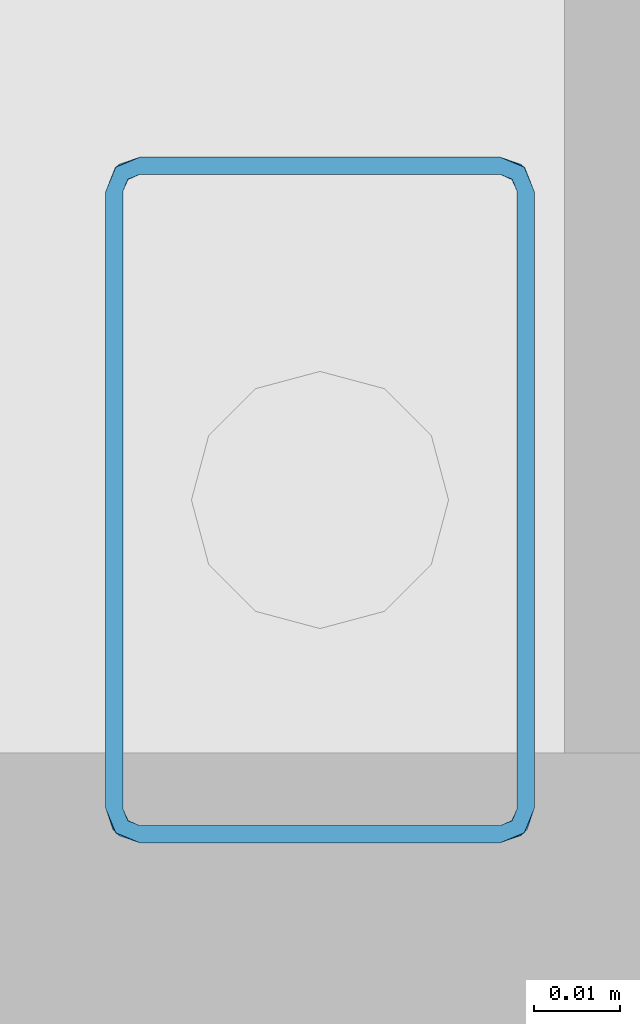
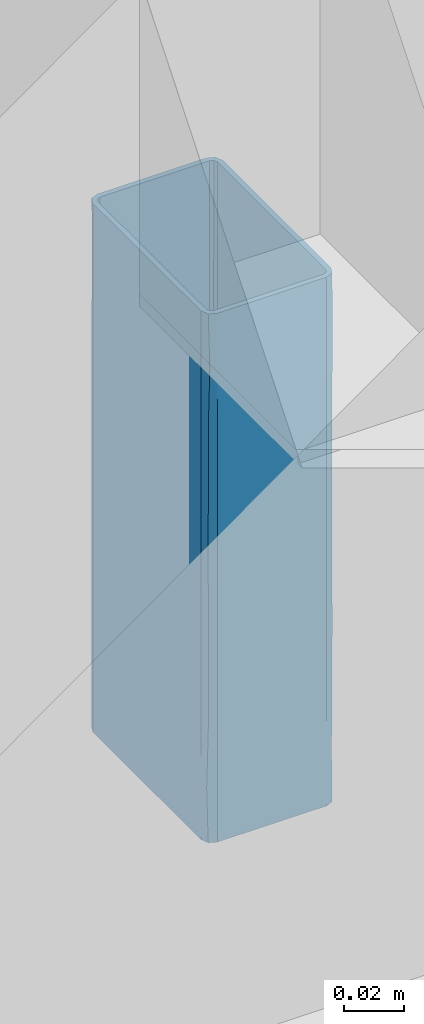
# One storey, part 146 of 230: 1 beam.
"""IFC4X3_ADD2 building model written with IfcOpenShell, lengths in millimetres."""

import ifcopenshell
import ifcopenshell.guid

model = None  # the IFC model being written
_history = None  # IfcOwnerHistory: only IFC2X3 demands one
_inside = {}  # id of a spatial element -> (the spatial element, [elements in it])
_under = {}  # id of a project, library or spatial element -> (it, [spatial elements below it])
_declared = {}  # id of a project -> (the project, [libraries it declares])
_typed = {}  # id of a type object -> (the type object, [elements of that type])
_made_of = {}  # id of a material, layer set ... -> (it, [elements and type objects made of it])


def new_model(schema):
    """Start an empty IFC model of exactly this schema.

    Asked for "IFC4X3", IfcOpenShell would pick the latest addendum, in which some entities
    have other attributes; the version numbers below select the first issue.
    IFC2X3 requires an IfcOwnerHistory on every rooted entity: one is made here for all.
    """
    global model, _history
    if schema == "IFC4X3":
        model = ifcopenshell.file(schema_version=(4, 3, 0, 0))
    else:
        model = ifcopenshell.file(schema=schema)
    _inside.clear()
    _under.clear()
    _declared.clear()
    _typed.clear()
    _made_of.clear()
    _history = None
    if model.schema == "IFC2X3":
        org = make("IfcOrganization", Name="unknown")
        user = make(
            "IfcPersonAndOrganization",
            ThePerson=make("IfcPerson", FamilyName="unknown"),
            TheOrganization=org,
        )
        app = make(
            "IfcApplication",
            ApplicationDeveloper=org,
            Version="unknown",
            ApplicationFullName="unknown",
            ApplicationIdentifier="unknown",
        )
        _history = make(
            "IfcOwnerHistory",
            OwningUser=user,
            OwningApplication=app,
            ChangeAction="ADDED",
            CreationDate=0,
        )
    return model


def make(cls, **values):
    """One entity of the class cls with the attributes given. An attribute that is None is left unset."""
    return model.create_entity(
        cls, **{name: value for name, value in values.items() if value is not None}
    )


def rooted(cls, **values):
    """An entity with a GlobalId (a new one), such as an element, a storey or a relation."""
    return make(cls, GlobalId=ifcopenshell.guid.new(), OwnerHistory=_history, **values)


def si_unit(unit_type, name, prefix=None):
    """IfcSIUnit, for example si_unit("LENGTHUNIT", "METRE", prefix="MILLI")."""
    return make("IfcSIUnit", UnitType=unit_type, Prefix=prefix, Name=name)


def assignment(units):
    """IfcUnitAssignment: the units of a project."""
    return None if units is None else make("IfcUnitAssignment", Units=units)


def point(xyz):
    """IfcCartesianPoint."""
    return None if xyz is None else make("IfcCartesianPoint", Coordinates=xyz)


def direction(xyz):
    """IfcDirection."""
    return None if xyz is None else make("IfcDirection", DirectionRatios=xyz)


def frame(location, z_axis=None, x_axis=None):
    """IfcAxis2Placement3D, a coordinate frame: its origin and axes. An axis left out is left unset."""
    return make(
        "IfcAxis2Placement3D",
        Location=point(location),
        Axis=direction(z_axis),
        RefDirection=direction(x_axis),
    )


def origin_with_axes():
    """The frame at (0, 0, 0) with the z axis (0, 0, 1) and the x axis (1, 0, 0) written out."""
    return frame((0.0, 0.0, 0.0), z_axis=(0.0, 0.0, 1.0), x_axis=(1.0, 0.0, 0.0))


def place(relative_to, where):
    """IfcLocalPlacement: puts the frame where relative to a parent placement (None: the world)."""
    return make(
        "IfcLocalPlacement", PlacementRelTo=relative_to, RelativePlacement=where
    )


def context(
    kind, dimensions, precision=None, world=None, true_north=None, identifier=None
):
    """IfcGeometricRepresentationContext, for example the 3D "Model" context."""
    return make(
        "IfcGeometricRepresentationContext",
        ContextIdentifier=identifier,
        ContextType=kind,
        CoordinateSpaceDimension=dimensions,
        Precision=precision,
        WorldCoordinateSystem=world,
        TrueNorth=true_north,
    )


def subcontext(parent, identifier, kind, view, scale=None):
    """IfcGeometricRepresentationSubContext, for example "Body" below "Model"."""
    return make(
        "IfcGeometricRepresentationSubContext",
        ContextIdentifier=identifier,
        ContextType=kind,
        ParentContext=parent,
        TargetScale=scale,
        TargetView=view,
    )


def project(units=None, contexts=None):
    """IfcProject with its units and contexts."""
    return rooted(
        "IfcProject",
        Name="project",
        RepresentationContexts=contexts,
        UnitsInContext=assignment(units),
    )


def spatial(cls, under=None, at=None, **own):
    """A site, building, storey or space (cls), placed at a placement, below another one or the project."""
    s = rooted(cls, ObjectPlacement=at, **own)
    if under is not None:
        _under.setdefault(under.id(), (under, []))[1].append(s)
    return s


def point_list(points):
    """IfcCartesianPointList2D or 3D."""
    cls = (
        "IfcCartesianPointList2D" if len(points[0]) == 2 else "IfcCartesianPointList3D"
    )
    return make(cls, CoordList=points)


def polygons(points, faces, closed=None, point_numbers=None):
    """IfcPolygonalFaceSet: a face is its outer loop, then its inner loops; points numbered from 1."""
    made = []
    for loops in faces:
        if len(loops) == 1:
            made.append(make("IfcIndexedPolygonalFace", CoordIndex=loops[0]))
        else:
            made.append(
                make(
                    "IfcIndexedPolygonalFaceWithVoids",
                    CoordIndex=loops[0],
                    InnerCoordIndices=loops[1:],
                )
            )
    return make(
        "IfcPolygonalFaceSet",
        Coordinates=point_list(points),
        Closed=closed,
        Faces=made,
        PnIndex=point_numbers,
    )


def shape(context_of_items, identifier, shape_type, items):
    """IfcShapeRepresentation: the items that make up one representation, for example the "Body"."""
    return make(
        "IfcShapeRepresentation",
        ContextOfItems=context_of_items,
        RepresentationIdentifier=identifier,
        RepresentationType=shape_type,
        Items=items,
    )


def made_of(thing, what):
    """Note that an element or type object is made of a material, layer set ...; save() writes the relation."""
    if what is not None:
        _made_of.setdefault(what.id(), (what, []))[1].append(thing)
    return thing


def element(
    cls,
    number,
    at=None,
    inside=None,
    cuts=None,
    type_object=None,
    material=None,
    context=None,
    identifier="Body",
    shape_type=None,
    held_by="IfcProductDefinitionShape",
    body=None,
    shapes=None,
    **own,
):
    """One element of the class cls, such as IfcWall. Its Tag is "e" and its number.

    at: its placement. inside: the storey or other place that contains it. cuts: it is an
    opening in that element (IfcRelVoidsElement). A single representation is given by context,
    identifier, shape_type and body (its items); several are given by shapes. held_by: the class
    of the entity that holds the representations. save() writes the other relations.
    """
    e = rooted(cls, Tag="e%d" % number, ObjectPlacement=at, **own)
    if body is not None:
        shapes = [shape(context, identifier, shape_type, body)]
    if shapes is not None:
        e.Representation = make(held_by, Representations=shapes)
    if inside is not None:
        _inside.setdefault(inside.id(), (inside, []))[1].append(e)
    if cuts is not None:
        rooted(
            "IfcRelVoidsElement", RelatingBuildingElement=cuts, RelatedOpeningElement=e
        )
    if type_object is not None:
        _typed.setdefault(type_object.id(), (type_object, []))[1].append(e)
    return made_of(e, material)


def aggregate(whole, parts):
    """IfcRelAggregates: a whole, such as a stair, and the parts it consists of."""
    return rooted("IfcRelAggregates", RelatingObject=whole, RelatedObjects=parts)


def save(model, path):
    """Write the relations noted so far, then the file.

    IfcRelAggregates (storeys below a building ...), IfcRelContainedInSpatialStructure (elements
    in a storey), IfcRelDefinesByType, IfcRelAssociatesMaterial and IfcRelDeclares: one each for
    every whole, place, type object, material and project.
    """
    for whole, parts in _under.values():
        aggregate(whole, parts)
    for where, things in _inside.values():
        rooted(
            "IfcRelContainedInSpatialStructure",
            RelatedElements=things,
            RelatingStructure=where,
        )
    for kind, things in _typed.values():
        rooted("IfcRelDefinesByType", RelatedObjects=things, RelatingType=kind)
    for what, things in _made_of.values():
        rooted("IfcRelAssociatesMaterial", RelatedObjects=things, RelatingMaterial=what)
    for by, libraries in _declared.values():
        rooted("IfcRelDeclares", RelatingContext=by, RelatedDefinitions=libraries)
    model.write(path)


model = new_model("IFC4X3_ADD2")

# Units and contexts
model_context = context("Model", 3, precision=1e-05, world=origin_with_axes(), true_north=direction((0.0, 1.0)))
body_context = subcontext(model_context, "Body", "Model", "MODEL_VIEW")
ifc_project = project(units=[si_unit("LENGTHUNIT", "METRE", prefix="MILLI"), si_unit("AREAUNIT", "SQUARE_METRE"), si_unit("VOLUMEUNIT", "CUBIC_METRE"), si_unit("PLANEANGLEUNIT", "RADIAN"), si_unit("TIMEUNIT", "SECOND"), si_unit("MASSUNIT", "GRAM")], contexts=[model_context])

# Site, building, storey
site_placement = place(None, origin_with_axes())
site = spatial("IfcSite", under=ifc_project, at=site_placement, Name="Site", CompositionType="ELEMENT")
building_placement = place(site_placement, origin_with_axes())
building = spatial("IfcBuilding", under=site, at=building_placement, Name="IFC Building Story")
storey_placement = place(building_placement, origin_with_axes())
storey = spatial("IfcBuildingStorey", under=building, at=storey_placement, Name="ETAGE 00 (0)", Elevation=0.0)

# Beam
beam_placement = place(storey_placement, origin_with_axes())
element("IfcBeam", 1, at=beam_placement, inside=storey, Name="PS9", ObjectType="K50*80*2", context=body_context, shape_type="Tessellation", body=[
    polygons([(33514.18800000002, -161.0, 3775.0), (33516.18800000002, -161.0, 3775.0), (33513.60221356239, -162.4142135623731, 3775.0), (33516.18800000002, -88.99999999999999, 3775.0), (33514.18800000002, -88.99999999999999, 3775.0), (33513.60221356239, -87.5857864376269, 3775.0), (33515.01642712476, -86.17157287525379, 3775.0), (33512.18800000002, -85.0, 3775.0), (33512.18800000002, -87.0, 3775.0), (33470.18800000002, -87.0, 3775.0), (33470.18800000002, -85.0, 3775.0), (33468.77378643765, -87.5857864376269, 3775.0), (33467.35957287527, -86.17157287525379, 3775.0), (33466.18800000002, -88.99999999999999, 3775.0), (33468.18800000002, -88.99999999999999, 3775.0), (33468.18800000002, -160.9999999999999, 3775.0), (33466.18800000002, -161.0, 3775.0), (33468.77378643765, -162.4142135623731, 3775.0), (33467.35957287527, -163.8284271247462, 3775.0), (33470.18800000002, -165.0, 3775.0), (33470.18800000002, -163.0, 3775.0), (33512.18800000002, -165.0, 3775.0), (33512.18800000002, -163.0, 3775.0), (33515.01642712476, -163.8284271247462, 3775.0), (33468.18800000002, -161.0, 3990.0), (33466.18800000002, -160.9999999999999, 3990.0), (33468.77378643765, -162.4142135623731, 3990.0), (33466.18800000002, -88.99999999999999, 3990.0), (33468.18800000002, -88.99999999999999, 3990.0), (33468.77378643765, -87.5857864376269, 3990.0), (33467.35957287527, -86.17157287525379, 3990.0), (33470.18800000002, -85.0, 3990.0), (33470.18800000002, -87.0, 3990.0), (33512.18800000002, -87.0, 3990.0), (33512.18800000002, -85.0, 3990.0), (33513.60221356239, -87.5857864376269, 3990.0), (33515.01642712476, -86.17157287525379, 3990.0), (33516.18800000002, -88.99999999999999, 3990.0), (33514.18800000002, -88.99999999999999, 3990.0), (33514.18800000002, -161.0, 3990.0), (33516.18800000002, -161.0, 3990.0), (33513.60221356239, -162.4142135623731, 3990.0), (33515.01642712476, -163.8284271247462, 3990.0), (33512.18800000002, -165.0, 3990.0), (33512.18800000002, -163.0, 3990.0), (33470.18800000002, -165.0, 3990.0), (33470.18800000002, -163.0, 3990.0), (33467.35957287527, -163.8284271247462, 3990.0), (33466.18800000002, -161.0, 3809.917044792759), (33466.18800000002, -161.0, 3844.834089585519), (33466.18800000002, -161.0, 3879.751134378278), (33466.18800000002, -161.0, 3914.668179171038), (33466.18800000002, -161.0, 3952.334089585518), (33466.18800000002, -161.0, 3972.541475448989), (33466.18800000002, -88.99999999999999, 3972.541476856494), (33466.18800000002, -88.99999999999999, 3952.33408986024), (33466.18800000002, -88.99999999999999, 3914.668181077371), (33466.18800000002, -88.99999999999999, 3879.751136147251), (33466.18800000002, -88.99999999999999, 3844.83408986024), (33466.18800000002, -88.99999999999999, 3809.91704493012), (33467.77085087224, -85.81293393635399, 3967.873818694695), (33467.40913664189, -86.12286280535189, 3945.666473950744), (33467.27053072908, -86.26351081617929, 3895.937497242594), (33467.41797321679, -86.1143542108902, 3871.663943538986), (33470.18800000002, -85.0, 3909.374999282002), (33470.18800000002, -85.0, 3882.5), (33470.18800000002, -85.0, 3955.082954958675), (33470.18800000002, -85.0, 3936.250001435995), (33467.35957288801, -86.1715728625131, 3827.375566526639), (33467.45078342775, -86.08321316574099, 3919.653796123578), (33467.35957290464, -86.17157284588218, 3804.335726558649), (33470.18800000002, -85.0, 3844.83409008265), (33470.18800000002, -85.0, 3809.917045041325), (33467.29189265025, -86.24091279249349, 3849.532632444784), (33512.18800000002, -85.0, 3955.082954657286), (33512.18800000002, -85.0, 3920.165909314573), (33512.18800000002, -85.0, 3882.5), (33512.18800000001, -85.0, 3855.625), (33512.18800000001, -85.0, 3828.75), (33512.18800000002, -85.0, 3809.917045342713), (33516.18800000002, -88.99999999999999, 3920.165909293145), (33516.18800000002, -88.99999999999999, 3885.248863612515), (33514.95802685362, -86.11435427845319, 3893.336049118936), (33515.10546930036, -86.26351084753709, 3869.062497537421), (33514.96686333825, -86.1228627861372, 3819.333521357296), (33514.92521661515, -86.0832132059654, 3845.346200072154), (33516.18800000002, -88.99999999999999, 3850.331817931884), (33516.18800000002, -88.99999999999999, 3812.665908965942), (33514.60514905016, -85.81293387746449, 3797.126178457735), (33516.18800000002, -88.99999999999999, 3955.082954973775), (33515.01642704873, -86.17157279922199, 3960.664264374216), (33515.01642711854, -86.17157286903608, 3937.624427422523), (33516.18800000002, -88.99999999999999, 3792.458522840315), (33515.08410717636, -86.2409126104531, 3915.467360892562), (33516.18800000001, -161.0, 3955.082955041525), (33516.18800000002, -161.0, 3936.250000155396), (33516.18800000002, -161.0, 3909.374999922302), (33516.18800000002, -161.0, 3882.500000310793), (33516.18800000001, -161.0, 3855.625000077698), (33516.18800000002, -161.0, 3828.749999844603), (33516.18800000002, -161.0, 3809.917044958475), (33515.12578757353, -163.7146646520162, 3845.577340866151), (33514.61224142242, -164.181674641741, 3797.166760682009), (33512.18800000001, -165.0, 3952.334091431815), (33515.37506619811, -163.4171489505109, 3967.873818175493), (33512.18800000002, -165.0, 3972.541476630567), (33515.01642712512, -163.8284271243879, 3819.333521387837), (33512.18800000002, -165.0, 3809.91704469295), (33512.18800000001, -165.0, 3844.834091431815), (33515.06513731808, -163.7788632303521, 3945.666473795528), (33515.08916752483, -163.7537659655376, 3869.062497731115), (33512.18800000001, -165.0, 3914.668182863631), (33514.92448913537, -163.9174693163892, 3895.937497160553), (33515.10478680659, -163.7372166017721, 3919.653793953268), (33512.18800000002, -165.0, 3879.75113817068), (33470.18800000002, -165.0, 3955.08295453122), (33470.18800000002, -165.0, 3936.250000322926), (33470.18800000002, -165.0, 3909.374999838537), (33470.18800000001, -165.0, 3882.499999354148), (33470.18800000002, -165.0, 3855.624998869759), (33470.18800000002, -165.0, 3828.749999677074), (33470.18800000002, -165.0, 3809.91704546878), (33467.47333532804, -163.9377875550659, 3845.577340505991), (33467.00632533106, -163.4242413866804, 3797.166760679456), (33467.77085103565, -164.1870661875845, 3967.873819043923), (33467.35957286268, -163.8284271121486, 3819.333521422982), (33467.270530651, -163.7364891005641, 3895.9374973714), (33467.45078336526, -163.9167867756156, 3919.653795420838), (33467.43423399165, -163.9011674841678, 3869.062497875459), (33467.40913672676, -163.8771372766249, 3945.66647440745), (33468.18800000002, -161.0, 3787.345039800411), (33468.18800000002, -160.9999999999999, 3977.654960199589), (33468.71391543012, -162.3516932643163, 3885.294330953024), (33468.69622650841, -162.3321455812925, 3897.412200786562), (33470.18800000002, -163.0, 3895.9374996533), (33468.77378643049, -162.4142135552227, 3971.482438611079), (33468.77378643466, -162.4142135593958, 3958.277070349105), (33468.18800000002, -160.9999999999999, 3952.964881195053), (33468.18800000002, -160.9999999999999, 3965.309920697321), (33468.18800000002, -160.9999999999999, 3891.239682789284), (33470.18800000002, -163.0, 3787.345039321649), (33470.18800000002, -163.0, 3977.654960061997), (33468.18800000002, -161.0, 3833.119841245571), (33468.18800000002, -160.9999999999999, 3847.649801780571), (33468.86455020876, -162.4994934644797, 3835.468749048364), (33470.18800000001, -163.0, 3842.187499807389), (33470.18800000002, -163.0, 3828.749999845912), (33470.18800000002, -163.0, 3965.309920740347), (33470.18800000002, -163.0, 3936.249999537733), (33470.18800000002, -163.0, 3922.812499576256), (33468.69847931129, -162.3346640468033, 3934.447319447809), (33468.77378644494, -162.4142135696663, 3793.517559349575), (33468.84502735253, -162.4820338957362, 3805.455512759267), (33470.18800000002, -163.0, 3799.690079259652), (33468.79521084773, -162.4353182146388, 3823.199144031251), (33468.18800000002, -160.9999999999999, 3903.584722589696), (33468.84567458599, -162.4826201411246, 3873.855123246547), (33468.87753981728, -162.5108587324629, 3862.343748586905), (33468.18800000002, -161.0, 3862.179762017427), (33468.8304822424, -162.4687224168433, 3847.208930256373), (33468.18800000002, -161.0, 3804.059920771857), (33468.70255595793, -162.3391997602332, 3922.53114844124), (33468.70244673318, -162.339078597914, 3909.326205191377), (33470.18800000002, -163.0, 3909.374999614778), (33468.18800000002, -160.9999999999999, 3940.619841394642), (33468.7031060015, -162.3398096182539, 3946.373334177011), (33470.18800000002, -163.0, 3950.779960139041), (33470.18800000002, -163.0, 3882.499999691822), (33468.18800000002, -161.0, 3876.709722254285), (33470.18800000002, -163.0, 3869.062499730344), (33470.18800000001, -163.0, 3855.624999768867), (33468.18800000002, -160.9999999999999, 3915.929762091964), (33468.18800000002, -160.9999999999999, 3928.274801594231), (33470.18800000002, -163.0, 3814.220039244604), (33468.18800000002, -161.0, 3818.589881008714), (33512.18800000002, -163.0, 3977.654960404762), (33512.18800000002, -163.0, 3963.125000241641), (33512.18800000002, -163.0, 3949.687500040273), (33512.18800000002, -163.0, 3936.249999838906), (33512.18800000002, -163.0, 3922.812499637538), (33512.18800000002, -163.0, 3909.375000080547), (33512.18800000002, -163.0, 3895.937500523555), (33512.18800000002, -163.0, 3882.500000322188), (33512.18800000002, -163.0, 3867.970040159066), (33512.18800000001, -163.0, 3853.44007935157), (33512.18800000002, -163.0, 3838.910118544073), (33512.18800000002, -163.0, 3824.380158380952), (33512.18800000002, -163.0, 3812.035118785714), (33512.18800000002, -163.0, 3799.690079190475), (33512.18800000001, -163.0, 3787.345039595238), (33514.18800000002, -161.0, 3847.649800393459), (33514.18800000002, -161.0, 3833.119841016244), (33513.57391865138, -162.441953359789, 3849.456469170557), (33514.18800000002, -161.0, 3862.179760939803), (33513.55890914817, -162.4562307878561, 3829.848143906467), (33513.66208468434, -162.3516931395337, 3885.2943310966), (33513.67977360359, -162.3321454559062, 3897.412201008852), (33514.18800000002, -161.0, 3818.589881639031), (33514.18800000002, -161.0, 3977.654960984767), (33514.18800000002, -161.0, 3787.345040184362), (33513.60221356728, -162.4142135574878, 3793.517559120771), (33513.60221354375, -162.4142135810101, 3971.482439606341), (33513.5281039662, -162.4846283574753, 3817.793365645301), (33513.52266400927, -162.4895207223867, 3805.862598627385), (33514.18800000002, -161.0, 3804.059921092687), (33513.68326589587, -162.3282243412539, 3922.102280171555), (33513.67355337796, -162.3390784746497, 3909.326205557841), (33513.56478551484, -162.4506762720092, 3873.290866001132), (33514.18800000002, -161.0, 3876.709721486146), (33513.67058166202, -162.3423679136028, 3934.82470770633), (33514.18800000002, -161.0, 3952.964880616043), (33514.18800000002, -161.0, 3940.61984043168), (33513.66670604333, -162.3466359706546, 3946.792359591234), (33513.65068791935, -162.3640176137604, 3959.137399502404), (33514.18800000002, -161.0, 3965.309920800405), (33514.18800000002, -161.0, 3903.584722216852), (33514.18800000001, -161.0, 3891.23968203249), (33513.49439408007, -162.5143759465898, 3861.031485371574), (33514.18800000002, -161.0, 3915.929761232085), (33514.18800000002, -161.0, 3928.274800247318), (33514.18800000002, -89.0, 3977.654961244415), (33514.18800000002, -89.0, 3963.125000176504), (33514.18800000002, -89.0, 3949.687499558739), (33514.18800000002, -89.0, 3936.249998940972), (33514.18800000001, -89.0, 3922.812499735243), (33514.18800000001, -89.0, 3909.374999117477), (33514.18800000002, -89.0, 3895.93749849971), (33514.18800000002, -89.0, 3882.499999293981), (33514.18800000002, -89.0, 3867.970038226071), (33514.18800000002, -89.0, 3853.440078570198), (33514.18800000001, -89.0, 3838.910118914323), (33514.18800000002, -89.0, 3824.380157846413), (33514.18800000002, -89.0, 3812.035117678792), (33514.18800000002, -89.0, 3799.690078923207), (33514.18800000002, -89.0, 3787.345040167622), (33512.18800000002, -87.0, 3952.964880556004), (33512.18800000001, -87.0, 3940.619841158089), (33513.53463598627, -87.5212939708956, 3946.792360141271), (33513.62995336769, -87.61408135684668, 3849.456469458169), (33512.18800000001, -87.0, 3833.119841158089), (33513.64423079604, -87.62909086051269, 3829.848143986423), (33513.53969316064, -87.5259153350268, 3885.294331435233), (33513.52014548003, -87.5082264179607, 3897.41220141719), (33512.18800000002, -87.0, 3818.589880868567), (33512.18800000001, -87.0, 3847.649801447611), (33512.18800000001, -87.0, 3862.179761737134), (33512.18800000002, -87.0, 3787.345039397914), (33513.60221356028, -87.58578643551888, 3793.517559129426), (33512.18800000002, -87.0, 3804.059920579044), (33512.18800000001, -87.0, 3977.654960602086), (33513.55201761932, -87.5373120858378, 3959.137400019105), (33513.67262836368, -87.65989604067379, 3817.793365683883), (33513.67752072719, -87.66533599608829, 3805.862598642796), (33513.51622436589, -87.5047341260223, 3922.102280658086), (33513.52707849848, -87.5144466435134, 3909.32620602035), (33513.63867629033, -87.62321450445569, 3873.290866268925), (33512.18800000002, -87.0, 3876.709722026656), (33513.53036793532, -87.51741835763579, 3934.824708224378), (33513.60221357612, -87.58578645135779, 3971.482439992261), (33512.18800000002, -87.0, 3965.309921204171), (33512.18800000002, -87.0, 3903.584721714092), (33512.18800000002, -87.0, 3891.239682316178), (33513.70237595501, -87.693605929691, 3861.031485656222), (33512.18800000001, -87.0, 3915.929761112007), (33512.18800000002, -87.0, 3928.274801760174), (33470.18800000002, -87.0, 3977.65496031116), (33470.18800000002, -87.0, 3965.30992062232), (33470.18800000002, -87.0, 3952.96488093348), (33470.18800000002, -87.0, 3940.61984124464), (33470.18800000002, -87.0, 3928.2748015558), (33470.18800000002, -87.0, 3915.92976186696), (33470.18800000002, -87.0, 3903.58472217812), (33470.18800000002, -87.0, 3891.23968248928), (33470.18800000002, -87.0, 3876.70972217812), (33470.18800000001, -87.0, 3862.17976186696), (33470.18800000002, -87.0, 3847.649801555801), (33470.18800000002, -87.0, 3833.119841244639), (33470.18800000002, -87.0, 3818.58988093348), (33470.18800000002, -87.0, 3804.059920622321), (33470.18800000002, -87.0, 3787.34503968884), (33468.85585447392, -87.5082264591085, 3897.412200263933), (33468.83630675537, -87.52591541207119, 3885.29433118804), (33468.77378649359, -87.5857863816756, 3971.482436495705), (33468.18800000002, -88.99999999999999, 3936.249999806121), (33468.18800000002, -88.99999999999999, 3922.812499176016), (33468.85333601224, -87.51047925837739, 3934.447318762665), (33468.77378649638, -87.5857863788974, 3958.277070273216), (33468.18800000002, -88.99999999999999, 3787.345040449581), (33468.77378643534, -87.5857864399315, 3793.517559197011), (33468.18800000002, -88.99999999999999, 3799.690080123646), (33468.18800000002, -88.99999999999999, 3977.654960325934), (33468.6885065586, -87.67655018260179, 3835.46874861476), (33468.18800000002, -88.99999999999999, 3895.937499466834), (33468.18800000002, -88.99999999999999, 3965.309920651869), (33468.18800000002, -88.99999999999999, 3950.779960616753), (33468.18800000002, -88.99999999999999, 3842.18750004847), (33468.18800000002, -88.99999999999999, 3828.750000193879), (33468.7059661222, -87.65702733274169, 3805.45551234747), (33468.75268181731, -87.60721081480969, 3823.199143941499), (33468.7053799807, -87.65767445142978, 3873.855123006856), (33468.67714130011, -87.68953977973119, 3862.343748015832), (33468.71927762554, -87.64248219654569, 3847.208929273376), (33468.84880026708, -87.5145559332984, 3922.531149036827), (33468.84892143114, -87.514446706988, 3909.326203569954), (33468.18800000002, -88.99999999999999, 3909.374999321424), (33468.84819028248, -87.5151060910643, 3946.373333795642), (33468.18800000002, -88.99999999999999, 3882.499999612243), (33468.18800000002, -88.99999999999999, 3869.062499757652), (33468.18800000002, -88.99999999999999, 3855.624999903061), (33468.18800000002, -88.99999999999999, 3814.220040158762)], [[[1, 2, 3]], [[2, 1, 4]], [[5, 4, 1]], [[6, 4, 5]], [[7, 4, 6]], [[6, 8, 7]], [[6, 9, 8]], [[8, 9, 10]], [[10, 11, 8]], [[10, 12, 11]], [[11, 12, 13]], [[14, 13, 12]], [[14, 12, 15]], [[14, 15, 16]], [[16, 17, 14]], [[18, 17, 16]], [[17, 18, 19]], [[18, 20, 19]], [[21, 20, 18]], [[20, 21, 22]], [[23, 22, 21]], [[3, 22, 23]], [[22, 3, 24]], [[3, 2, 24]], [[25, 26, 27]], [[26, 25, 28]], [[29, 28, 25]], [[30, 28, 29]], [[31, 28, 30]], [[30, 32, 31]], [[30, 33, 32]], [[32, 33, 34]], [[34, 35, 32]], [[34, 36, 35]], [[35, 36, 37]], [[38, 37, 36]], [[38, 36, 39]], [[38, 39, 40]], [[40, 41, 38]], [[42, 41, 40]], [[41, 42, 43]], [[42, 44, 43]], [[45, 44, 42]], [[44, 45, 46]], [[47, 46, 45]], [[27, 46, 47]], [[46, 27, 48]], [[27, 26, 48]], [[54, 26, 28]], [[54, 28, 55]], [[55, 56, 53]], [[55, 53, 54]], [[56, 57, 52]], [[56, 52, 53]], [[57, 58, 51]], [[57, 51, 52]], [[58, 59, 50]], [[58, 50, 51]], [[59, 60, 49]], [[59, 49, 50]], [[60, 14, 17]], [[60, 17, 49]], [[61, 62, 56]], [[58, 63, 64]], [[59, 58, 64]], [[57, 56, 62]], [[63, 65, 66]], [[62, 67, 68]], [[59, 69, 60]], [[70, 68, 65]], [[60, 69, 71, 14]], [[69, 72, 73]], [[55, 31, 61]], [[71, 11, 13]], [[66, 64, 63]], [[62, 61, 67]], [[55, 61, 56]], [[65, 63, 70]], [[58, 57, 63]], [[70, 63, 57]], [[31, 55, 28]], [[14, 71, 13]], [[32, 67, 61]], [[32, 61, 31]], [[66, 72, 64]], [[72, 69, 74]], [[57, 62, 70]], [[68, 70, 62]], [[69, 59, 74]], [[71, 69, 73]], [[11, 71, 73]], [[59, 64, 74]], [[72, 74, 64]], [[67, 32, 35]], [[67, 35, 75]], [[75, 76, 68]], [[75, 68, 67]], [[76, 65, 68]], [[76, 77, 66]], [[76, 66, 65]], [[77, 78, 72]], [[77, 72, 66]], [[79, 80, 73]], [[79, 73, 72]], [[72, 78, 79]], [[80, 8, 11]], [[80, 11, 73]], [[81, 82, 83]], [[82, 84, 83]], [[79, 85, 80]], [[86, 79, 78]], [[87, 88, 85]], [[84, 78, 77]], [[80, 85, 89]], [[38, 90, 91]], [[90, 92, 91]], [[92, 75, 91]], [[81, 92, 90]], [[7, 93, 4]], [[93, 7, 89]], [[35, 37, 91]], [[89, 85, 88]], [[77, 83, 84]], [[93, 89, 88]], [[78, 84, 86]], [[82, 87, 84]], [[86, 84, 87]], [[8, 80, 89]], [[8, 89, 7]], [[77, 76, 83]], [[76, 92, 94]], [[87, 85, 86]], [[79, 86, 85]], [[94, 92, 81]], [[75, 92, 76]], [[35, 91, 75]], [[38, 91, 37]], [[81, 83, 94]], [[76, 94, 83]], [[90, 38, 41]], [[90, 41, 95]], [[96, 97, 81]], [[81, 90, 95]], [[81, 95, 96]], [[97, 98, 82]], [[97, 82, 81]], [[98, 99, 87]], [[98, 87, 82]], [[100, 101, 88]], [[88, 87, 99]], [[88, 99, 100]], [[101, 93, 88]], [[101, 2, 4]], [[101, 4, 93]], [[100, 99, 102]], [[2, 101, 103]], [[104, 105, 106]], [[107, 103, 101]], [[43, 44, 106]], [[108, 107, 109]], [[95, 110, 96]], [[100, 107, 101]], [[99, 98, 111]], [[112, 113, 114]], [[104, 110, 105]], [[114, 113, 97]], [[22, 24, 103]], [[99, 111, 102]], [[103, 107, 108]], [[43, 105, 41]], [[112, 110, 104]], [[113, 115, 111]], [[110, 114, 96]], [[113, 98, 97]], [[111, 109, 102]], [[112, 115, 113]], [[105, 110, 95]], [[113, 111, 98]], [[109, 111, 115]], [[41, 105, 95]], [[106, 105, 43]], [[22, 103, 108]], [[103, 24, 2]], [[109, 107, 102]], [[100, 102, 107]], [[96, 114, 97]], [[110, 112, 114]], [[106, 44, 46]], [[106, 46, 116]], [[116, 104, 106]], [[117, 118, 112]], [[117, 112, 104]], [[104, 116, 117]], [[118, 119, 115]], [[118, 115, 112]], [[119, 120, 109]], [[119, 109, 115]], [[121, 122, 108]], [[121, 108, 109]], [[109, 120, 121]], [[122, 20, 22]], [[122, 22, 108]], [[121, 120, 123]], [[17, 19, 124]], [[53, 125, 54]], [[126, 124, 122]], [[48, 26, 54]], [[122, 121, 126]], [[52, 127, 128]], [[20, 122, 124]], [[120, 119, 129]], [[116, 130, 117]], [[53, 130, 125]], [[128, 127, 118]], [[49, 126, 50]], [[120, 129, 123]], [[124, 126, 49]], [[48, 125, 46]], [[52, 130, 53]], [[127, 51, 129]], [[130, 128, 117]], [[127, 119, 118]], [[129, 50, 123]], [[52, 51, 127]], [[125, 130, 116]], [[127, 129, 119]], [[50, 129, 51]], [[46, 125, 116]], [[54, 125, 48]], [[17, 124, 49]], [[124, 19, 20]], [[50, 126, 123]], [[121, 123, 126]], [[117, 128, 118]], [[130, 52, 128]], [[131, 18, 16]], [[132, 25, 27]], [[133, 134, 135]], [[136, 137, 138]], [[136, 138, 139]], [[139, 132, 27]], [[139, 27, 136]], [[140, 134, 133]], [[141, 21, 18]], [[27, 47, 142]], [[143, 144, 145]], [[146, 147, 145]], [[137, 136, 148]], [[27, 142, 136]], [[149, 150, 151]], [[152, 153, 154]], [[155, 143, 145]], [[141, 152, 154]], [[134, 140, 156]], [[157, 158, 159]], [[160, 144, 159]], [[18, 131, 161, 152]], [[18, 152, 141]], [[142, 148, 136]], [[151, 150, 162]], [[134, 156, 163]], [[147, 155, 145]], [[163, 164, 134]], [[160, 145, 144]], [[151, 165, 166]], [[167, 166, 137]], [[166, 138, 137]], [[137, 148, 167]], [[135, 168, 133]], [[135, 134, 164]], [[133, 169, 140]], [[170, 171, 158]], [[133, 168, 157]], [[169, 157, 159]], [[162, 150, 164]], [[163, 156, 172]], [[165, 151, 173]], [[162, 164, 163]], [[162, 173, 151]], [[167, 149, 166]], [[162, 172, 173]], [[172, 162, 163]], [[149, 151, 166]], [[161, 153, 152]], [[166, 165, 138]], [[153, 174, 154]], [[161, 175, 153]], [[155, 174, 153]], [[160, 146, 145]], [[175, 143, 155]], [[175, 155, 153]], [[155, 147, 174]], [[160, 171, 146]], [[158, 171, 160]], [[157, 170, 158]], [[159, 158, 160]], [[170, 157, 168]], [[133, 157, 169]], [[142, 47, 45]], [[142, 45, 176]], [[176, 177, 148]], [[176, 148, 142]], [[177, 178, 167]], [[177, 167, 148]], [[178, 179, 149]], [[178, 149, 167]], [[179, 180, 150]], [[179, 150, 149]], [[180, 181, 164]], [[180, 164, 150]], [[181, 182, 135]], [[181, 135, 164]], [[182, 183, 168]], [[182, 168, 135]], [[183, 184, 170]], [[183, 170, 168]], [[184, 185, 171]], [[184, 171, 170]], [[185, 186, 146]], [[185, 146, 171]], [[186, 187, 147]], [[186, 147, 146]], [[187, 188, 174]], [[187, 174, 147]], [[188, 189, 154]], [[188, 154, 174]], [[189, 190, 141]], [[189, 141, 154]], [[190, 23, 21]], [[190, 21, 141]], [[191, 192, 193, 194]], [[193, 192, 195]], [[196, 183, 182]], [[182, 197, 196]], [[198, 195, 192]], [[42, 40, 199]], [[200, 1, 3, 201]], [[42, 202, 176]], [[203, 195, 198]], [[204, 205, 201]], [[181, 206, 207]], [[208, 196, 209]], [[180, 210, 206]], [[204, 188, 203]], [[204, 203, 198]], [[211, 212, 213]], [[214, 177, 202]], [[202, 199, 215]], [[189, 201, 190]], [[176, 45, 42]], [[3, 23, 190]], [[199, 202, 42]], [[216, 217, 197]], [[182, 181, 197]], [[202, 177, 176]], [[207, 197, 181]], [[188, 204, 189]], [[213, 178, 214]], [[190, 201, 3]], [[200, 201, 205]], [[215, 214, 202]], [[211, 214, 215]], [[177, 214, 178]], [[207, 216, 197]], [[209, 194, 208]], [[184, 183, 208]], [[196, 197, 217]], [[218, 208, 194]], [[196, 217, 209]], [[189, 204, 201]], [[205, 204, 198]], [[211, 213, 214]], [[178, 213, 179]], [[207, 219, 216]], [[210, 179, 213]], [[220, 219, 206]], [[219, 207, 206]], [[212, 210, 213]], [[203, 188, 187]], [[179, 210, 180]], [[210, 212, 220]], [[195, 203, 187]], [[218, 194, 193]], [[195, 187, 186]], [[220, 206, 210]], [[181, 180, 206]], [[196, 208, 183]], [[218, 184, 208]], [[218, 185, 184]], [[193, 185, 218]], [[193, 186, 185]], [[186, 193, 195]], [[199, 40, 39]], [[199, 39, 221]], [[221, 222, 215]], [[221, 215, 199]], [[222, 223, 211]], [[222, 211, 215]], [[223, 224, 212]], [[223, 212, 211]], [[224, 225, 220]], [[224, 220, 212]], [[225, 226, 219]], [[225, 219, 220]], [[226, 216, 219]], [[226, 227, 217]], [[226, 217, 216]], [[227, 228, 209]], [[227, 209, 217]], [[228, 229, 194]], [[228, 194, 209]], [[229, 230, 191]], [[229, 191, 194]], [[230, 231, 192]], [[230, 192, 191]], [[231, 232, 198]], [[231, 198, 192]], [[233, 234, 205]], [[233, 205, 198]], [[198, 232, 233]], [[234, 235, 200]], [[234, 200, 205]], [[235, 5, 1]], [[235, 1, 200]], [[236, 237, 238]], [[239, 240, 241]], [[242, 228, 227]], [[227, 243, 242]], [[244, 241, 240]], [[245, 240, 239, 246]], [[247, 9, 6]], [[247, 6, 248]], [[248, 249, 247]], [[36, 34, 250]], [[251, 238, 223]], [[252, 241, 244]], [[253, 249, 248]], [[226, 254, 255]], [[256, 242, 257]], [[225, 258, 254]], [[253, 233, 252]], [[253, 252, 244]], [[235, 234, 248]], [[248, 6, 5]], [[248, 5, 235]], [[221, 39, 36]], [[251, 222, 259]], [[250, 260, 259]], [[36, 259, 221]], [[261, 262, 243]], [[227, 226, 243]], [[250, 259, 36]], [[255, 243, 226]], [[233, 253, 234]], [[221, 259, 222]], [[260, 251, 259]], [[236, 251, 260]], [[222, 251, 223]], [[255, 261, 243]], [[257, 246, 256]], [[229, 228, 256]], [[242, 243, 262]], [[263, 256, 246]], [[242, 262, 257]], [[234, 253, 248]], [[249, 253, 244]], [[236, 238, 251]], [[223, 238, 224]], [[255, 264, 261]], [[258, 224, 238]], [[265, 264, 254]], [[264, 255, 254]], [[237, 258, 238]], [[252, 233, 232]], [[224, 258, 225]], [[258, 237, 265]], [[241, 252, 232]], [[263, 246, 239]], [[241, 232, 231]], [[265, 254, 258]], [[226, 225, 254]], [[242, 256, 228]], [[263, 229, 256]], [[263, 230, 229]], [[239, 230, 263]], [[239, 231, 230]], [[231, 239, 241]], [[250, 34, 33]], [[250, 33, 266]], [[266, 267, 260]], [[266, 260, 250]], [[267, 268, 236]], [[267, 236, 260]], [[268, 269, 237]], [[268, 237, 236]], [[269, 270, 265]], [[269, 265, 237]], [[270, 271, 264]], [[270, 264, 265]], [[271, 272, 261]], [[271, 261, 264]], [[272, 273, 262]], [[272, 262, 261]], [[273, 274, 257]], [[273, 257, 262]], [[274, 275, 246]], [[274, 246, 257]], [[275, 276, 245]], [[275, 245, 246]], [[276, 277, 240]], [[276, 240, 245]], [[277, 278, 244]], [[277, 244, 240]], [[278, 279, 249]], [[278, 249, 244]], [[279, 280, 247]], [[279, 247, 249]], [[280, 10, 9]], [[280, 9, 247]], [[280, 12, 10]], [[266, 33, 30]], [[273, 281, 282]], [[30, 283, 266]], [[284, 285, 286]], [[267, 266, 283]], [[283, 287, 268]], [[283, 268, 267]], [[288, 15, 12]], [[288, 12, 289]], [[289, 290, 288]], [[30, 29, 291]], [[277, 276, 292]], [[282, 281, 293]], [[294, 295, 287]], [[294, 287, 283]], [[283, 291, 294]], [[296, 297, 292]], [[289, 298, 290]], [[299, 277, 292]], [[281, 273, 272]], [[300, 301, 275]], [[302, 276, 275]], [[289, 12, 280, 279]], [[286, 285, 303]], [[281, 272, 304]], [[297, 299, 292]], [[304, 305, 281]], [[302, 292, 276]], [[30, 291, 283]], [[286, 269, 306]], [[295, 306, 287]], [[306, 268, 287]], [[293, 307, 282]], [[293, 281, 305]], [[282, 274, 273]], [[308, 309, 301]], [[282, 307, 300]], [[274, 300, 275]], [[303, 285, 305]], [[304, 272, 271]], [[269, 286, 270]], [[303, 305, 304]], [[303, 270, 286]], [[295, 284, 306]], [[303, 271, 270]], [[271, 303, 304]], [[284, 286, 306]], [[279, 298, 289]], [[306, 269, 268]], [[298, 310, 290]], [[279, 278, 298]], [[299, 310, 298]], [[302, 296, 292]], [[278, 277, 299]], [[278, 299, 298]], [[299, 297, 310]], [[302, 309, 296]], [[301, 309, 302]], [[300, 308, 301]], [[275, 301, 302]], [[308, 300, 307]], [[282, 300, 274]], [[291, 29, 25]], [[291, 25, 132]], [[132, 139, 294]], [[132, 294, 291]], [[139, 138, 295]], [[139, 295, 294]], [[138, 165, 284]], [[138, 284, 295]], [[165, 173, 285]], [[165, 285, 284]], [[172, 156, 305]], [[305, 285, 173]], [[305, 173, 172]], [[156, 140, 293]], [[156, 293, 305]], [[140, 169, 307]], [[140, 307, 293]], [[169, 159, 308]], [[169, 308, 307]], [[159, 309, 308]], [[159, 144, 296]], [[159, 296, 309]], [[144, 143, 297]], [[144, 297, 296]], [[143, 175, 310]], [[143, 310, 297]], [[175, 161, 290]], [[175, 290, 310]], [[161, 131, 288]], [[161, 288, 290]], [[131, 16, 15]], [[131, 15, 288]]]),
])

save(model, "model.ifc")
